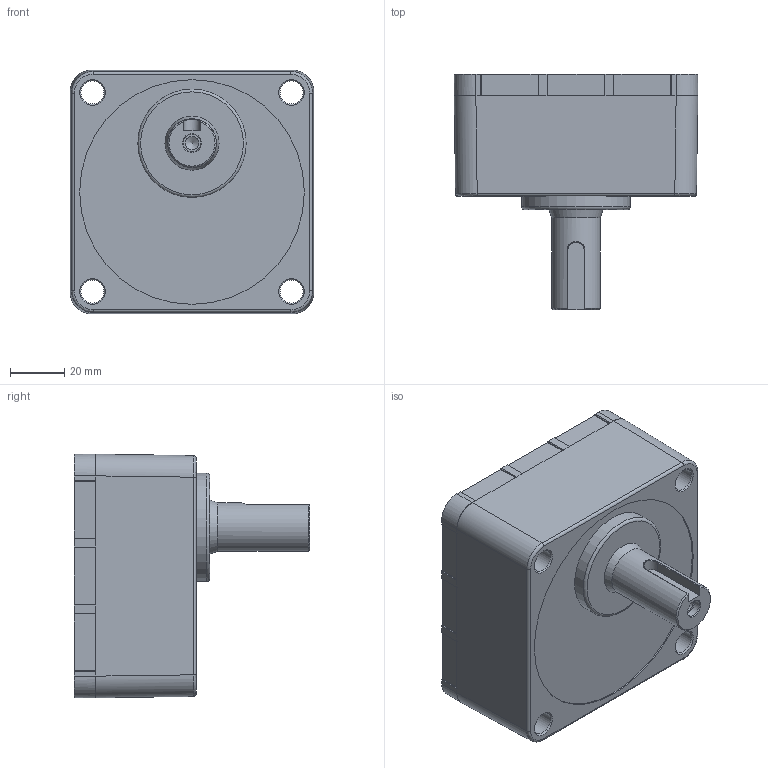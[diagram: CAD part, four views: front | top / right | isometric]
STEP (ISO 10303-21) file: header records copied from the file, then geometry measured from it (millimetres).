
FILE_DESCRIPTION((''),'2;1');
FILE_NAME('E:\2공장-도면\3D\STEP FILE\K9H(5~20)B.stp','2014-08-18T15:36:47',('輺'),(''),'Autodesk Inventor 2008','Autodesk Inventor 2008','');
FILE_SCHEMA(('CONFIG_CONTROL_DESIGN'));
Length unit declared in the file: millimetre
Products named in the file (1): 부품48
Bounding box: 90 x 87 x 90 mm (x, y, z)
Volume: 340801.2 mm3; surface area: 39828.8 mm2
Topology: 1 solids, 1 shells, 157 faces, 385 edges, 240 vertices
Faces by surface type: plane 110, cylinder 26, bspline 11, cone 9, torus 1
Full cylindrical faces by diameter (mm): 8.5 x4, 9 x1, 9.3 x4, 18 x1, 40 x1, 82 x1, 83 x1
Entity records: 5149 total; most frequent: CARTESIAN_POINT 1385, ORIENTED_EDGE 712, DIRECTION 707, EDGE_CURVE 356, VECTOR 275, LINE 275, VERTEX_POINT 236, AXIS2_PLACEMENT_3D 216
